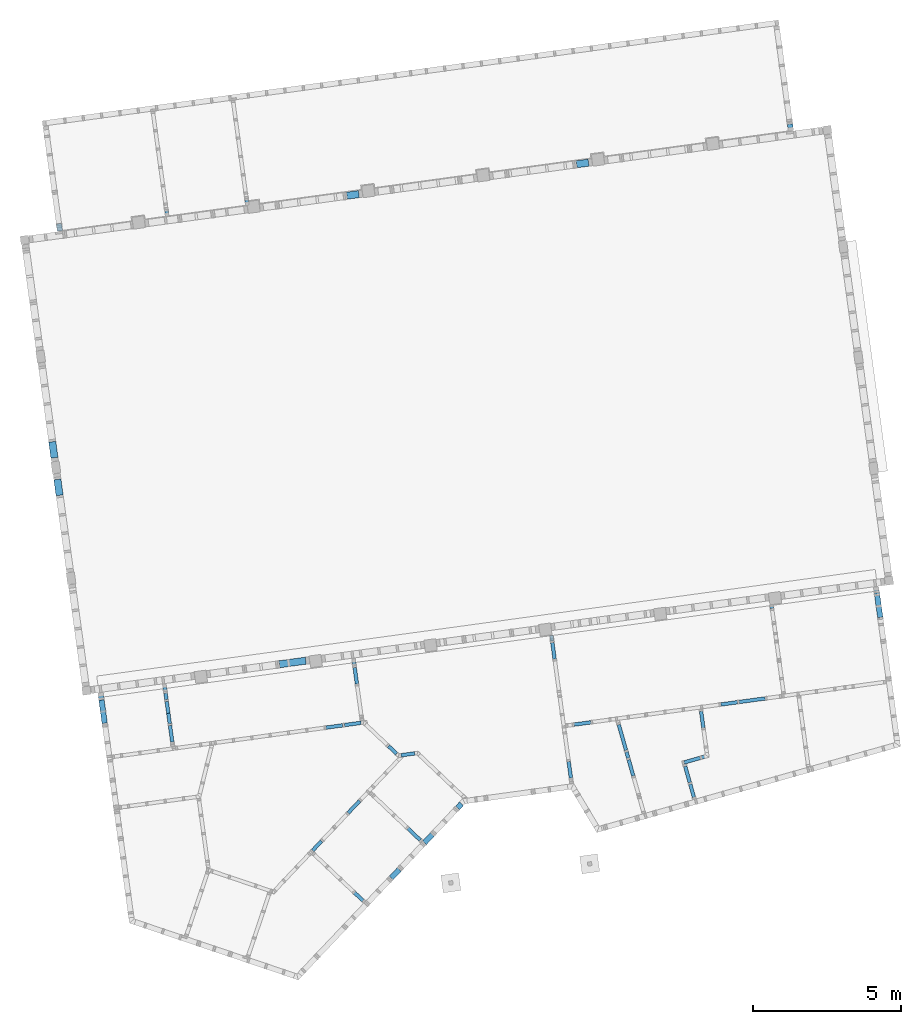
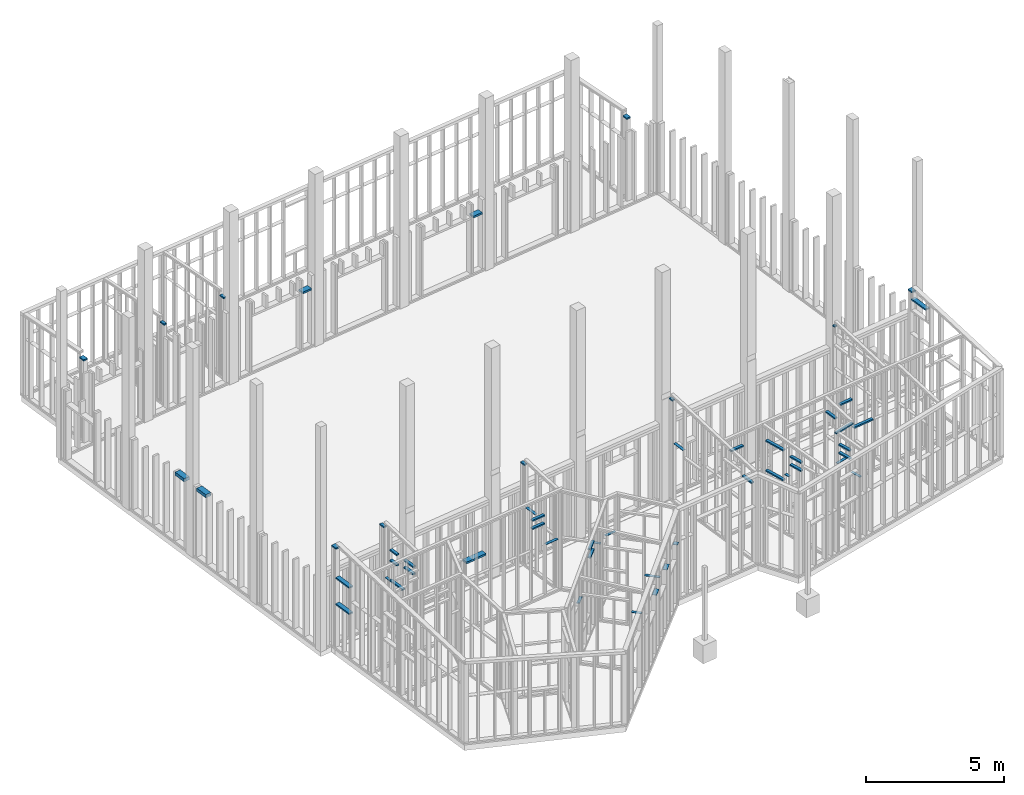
# One storey, part 14 of 24: 54 beams.
"""IFC2X3 building model written with IfcOpenShell, lengths in metres."""

from ifc_helpers import new_model, entity, si_unit, converted_unit, derived_unit, money_unit, direction, frame, frame_2d, origin_with_axes, place, context, subcontext, project, spatial, rectangle, extrude, clip, halfspace, material, type_object, element, save


model = new_model("IFC2X3")

# Units and contexts
model_context = context("Model", 3, precision=1e-05, world=origin_with_axes(), true_north=direction((0.0, 1.0)))
body_context = subcontext(model_context, "Body", "Model", "MODEL_VIEW")
ifc_project = project(units=[si_unit("LENGTHUNIT", "METRE"), si_unit("AREAUNIT", "SQUARE_METRE"), si_unit("VOLUMEUNIT", "CUBIC_METRE"), converted_unit("PLANEANGLEUNIT", "DEGREE", entity("IfcPlaneAngleMeasure", 0.0174532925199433), si_unit("PLANEANGLEUNIT", "RADIAN"), dimensions=[0, 0, 0, 0, 0, 0, 0]), money_unit("EUR"), converted_unit("TIMEUNIT", "Year", entity("IfcTimeMeasure", 31557600.0), si_unit("TIMEUNIT", "SECOND"), dimensions=[0, 0, 1, 0, 0, 0, 0]), si_unit("MASSUNIT", "GRAM", prefix="KILO"), si_unit("THERMODYNAMICTEMPERATUREUNIT", "DEGREE_CELSIUS"), si_unit("LUMINOUSINTENSITYUNIT", "LUMEN"), si_unit("ENERGYUNIT", "JOULE", prefix="MEGA"), derived_unit("THERMALCONDUCTANCEUNIT", [(si_unit("POWERUNIT", "WATT"), 1), (si_unit("LENGTHUNIT", "METRE"), -1), (si_unit("THERMODYNAMICTEMPERATUREUNIT", "KELVIN"), -1)]), derived_unit("SPECIFICHEATCAPACITYUNIT", [(si_unit("ENERGYUNIT", "JOULE"), 1), (si_unit("MASSUNIT", "GRAM", prefix="KILO"), -1), (si_unit("THERMODYNAMICTEMPERATUREUNIT", "KELVIN"), -1)]), derived_unit("MASSDENSITYUNIT", [(si_unit("MASSUNIT", "GRAM", prefix="KILO"), 1), (si_unit("VOLUMEUNIT", "CUBIC_METRE"), -1)])], contexts=[model_context])

# Site, building, storey
site_placement = place(None, origin_with_axes())
site = spatial("IfcSite", under=ifc_project, at=site_placement, Name="Gelände", CompositionType="ELEMENT")
building_placement = place(site_placement, origin_with_axes())
building = spatial("IfcBuilding", under=site, at=building_placement, Name="Gebäude", CompositionType="ELEMENT")
storey_placement = place(building_placement, origin_with_axes())
storey = spatial("IfcBuildingStorey", under=building, at=storey_placement, Name="EG", CompositionType="ELEMENT", Elevation=0.0)

# Beams
ifc_material_1 = material(Name="Bauholz")
beam_type_1 = type_object("IfcBeamType", Name="Bauholz 120 x 60", PredefinedType="NOTDEFINED")
beam_1_placement = place(storey_placement, frame((95.43457130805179, -155.1438306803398, 3.324435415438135), z_axis=(0.0, 0.0, 1.0), x_axis=(0.7262467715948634, -0.687434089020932, 0.0)))
element("IfcBeam", 1, at=beam_1_placement, inside=storey, type_object=beam_type_1, material=ifc_material_1, Name="Unterzug-021", context=body_context, shape_type="SweptSolid", body=[
    extrude(rectangle(XDim=0.06, YDim=0.12, at=frame_2d((-0.03, 0.0), x_axis=(1.0, 0.0))), frame((0.0, 0.0, 0.0), z_axis=(0.0, 1.0, 0.0), x_axis=(0.0, 0.0, 1.0)), (0.0, 0.0, 1.0), 0.5649999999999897),
])
beam_2_placement = place(storey_placement, frame((89.22474285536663, -150.7927194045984, 4.356648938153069), z_axis=(0.0, 0.0, 1.0), x_axis=(-0.9907484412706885, -0.135711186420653, 0.0)))
element("IfcBeam", 2, at=beam_2_placement, inside=storey, type_object=beam_type_1, material=ifc_material_1, Name="Unterzug-021", context=body_context, shape_type="SweptSolid", body=[
    extrude(rectangle(XDim=0.06, YDim=0.12, at=frame_2d((-0.03, 0.0), x_axis=(1.0, 0.0))), frame((0.0, 0.0, 0.0), z_axis=(0.0, 1.0, 0.0), x_axis=(0.0, 0.0, 1.0)), (0.0, 0.0, 1.0), 0.2529999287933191),
])
beam_3_placement = place(storey_placement, frame((95.6137137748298, -149.9428017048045, 4.353175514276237), z_axis=(0.0, 0.0, 1.0), x_axis=(-0.9907484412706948, -0.1357111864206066, 0.0)))
element("IfcBeam", 3, at=beam_3_placement, inside=storey, type_object=beam_type_1, material=ifc_material_1, Name="Unterzug-021", context=body_context, shape_type="SweptSolid", body=[
    extrude(rectangle(XDim=0.06, YDim=0.12, at=frame_2d((-0.03, 0.0), x_axis=(1.0, 0.0))), frame((0.0, 0.0, 0.0), z_axis=(0.0, 1.0, 0.0), x_axis=(0.0, 0.0, 1.0)), (0.0, 0.0, 1.0), 0.2314736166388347),
])
beam_4_placement = place(storey_placement, frame((104.5730254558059, -152.1643592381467, 3.517563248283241), z_axis=(0.0, 0.0, 1.0), x_axis=(-0.9621980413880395, -0.272350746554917, 0.0)))
element("IfcBeam", 4, at=beam_4_placement, inside=storey, type_object=beam_type_1, material=ifc_material_1, Name="Unterzug-021", context=body_context, shape_type="SweptSolid", body=[
    extrude(rectangle(XDim=0.06, YDim=0.12, at=frame_2d((-0.03, 0.0), x_axis=(1.0, 0.0))), frame((0.0, 0.0, 0.0), z_axis=(0.0, 1.0, 0.0), x_axis=(0.0, 0.0, 1.0)), (0.0, 0.0, 1.0), 0.8976032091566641),
])
beam_5_placement = place(storey_placement, frame((109.5164427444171, -151.277669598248, 2.195), z_axis=(0.0, 0.0, 1.0), x_axis=(-0.135711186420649, 0.9907484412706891, 0.0)))
element("IfcBeam", 5, at=beam_5_placement, inside=storey, type_object=beam_type_1, material=ifc_material_1, Name="Unterzug-021", context=body_context, shape_type="SweptSolid", body=[
    extrude(rectangle(XDim=0.06, YDim=0.12, at=frame_2d((-0.03, 0.0), x_axis=(1.0, 0.0))), frame((0.0, 0.0, 0.0), z_axis=(0.0, 1.0, 0.0), x_axis=(0.0, 0.0, 1.0)), (0.0, 0.0, 1.0), 0.8849999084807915),
])
beam_6_placement = place(storey_placement, frame((104.5730254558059, -152.1643592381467, 2.195), z_axis=(0.0, 0.0, 1.0), x_axis=(-0.9621980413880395, -0.272350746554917, 0.0)))
element("IfcBeam", 6, at=beam_6_placement, inside=storey, type_object=beam_type_1, material=ifc_material_1, Name="Unterzug-021", context=body_context, shape_type="SweptSolid", body=[
    extrude(rectangle(XDim=0.06, YDim=0.12, at=frame_2d((-0.03, 0.0), x_axis=(1.0, 0.0))), frame((0.0, 0.0, 0.0), z_axis=(0.0, 1.0, 0.0), x_axis=(0.0, 0.0, 1.0)), (0.0, 0.0, 1.0), 0.8976032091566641),
])
beam_7_placement = place(storey_placement, frame((89.30489838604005, -151.3778883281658, 2.195), z_axis=(0.0, 0.0, 1.0), x_axis=(-0.9907484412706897, -0.1357111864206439, 0.0)))
element("IfcBeam", 7, at=beam_7_placement, inside=storey, type_object=beam_type_1, material=ifc_material_1, Name="Unterzug-021", context=body_context, shape_type="SweptSolid", body=[
    extrude(rectangle(XDim=0.06, YDim=0.12, at=frame_2d((-0.03, 0.0), x_axis=(1.0, 0.0))), frame((0.0, 0.0, 0.0), z_axis=(0.0, 1.0, 0.0), x_axis=(0.0, 0.0, 1.0)), (0.0, 0.0, 1.0), 0.7600000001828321),
])
beam_8_placement = place(storey_placement, frame((102.296296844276, -149.1485518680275, 4.356648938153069), z_axis=(0.0, 0.0, 1.0), x_axis=(-0.9907484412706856, -0.1357111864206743, 0.0)))
element("IfcBeam", 8, at=beam_8_placement, inside=storey, type_object=beam_type_1, material=ifc_material_1, Name="Unterzug-021", context=body_context, shape_type="SweptSolid", body=[
    extrude(rectangle(XDim=0.06, YDim=0.12, at=frame_2d((-0.03, 0.0), x_axis=(1.0, 0.0))), frame((0.0, 0.0, 0.0), z_axis=(0.0, 1.0, 0.0), x_axis=(0.0, 0.0, 1.0)), (0.0, 0.0, 1.0), 0.1857247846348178),
])
beam_9_placement = place(storey_placement, frame((109.7305045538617, -148.1251793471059, 4.356648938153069), z_axis=(0.0, 0.0, 1.0), x_axis=(-0.9907486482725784, -0.1357096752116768, 0.0)))
element("IfcBeam", 9, at=beam_9_placement, inside=storey, type_object=beam_type_1, material=ifc_material_1, Name="Unterzug-021", context=body_context, shape_type="SweptSolid", body=[
    extrude(rectangle(XDim=0.06, YDim=0.12, at=frame_2d((-0.03, 0.0), x_axis=(1.0, 0.0))), frame((0.0, 0.0, 0.0), z_axis=(0.0, 1.0, 0.0), x_axis=(0.0, 0.0, 1.0)), (0.0, 0.0, 1.0), 0.11299430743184),
])
for number, where, z_axis, x_axis, name in (
    (10, (108.5801850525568, -151.4059152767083, 3.477643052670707), (0.0, 0.0, 1.0), (-0.1357111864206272, 0.990748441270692, 0.0), "Unterzug-021"),
    (11, (103.6264417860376, -152.0844634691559, 3.572563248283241), (0.0, 0.0, 1.0), (-0.1357111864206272, 0.990748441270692, 0.0), "Unterzug-021"),
):
    element("IfcBeam", number, at=place(storey_placement, frame(where, z_axis=z_axis, x_axis=x_axis)), inside=storey, type_object=beam_type_1, material=ifc_material_1, Name=name, context=body_context, shape_type="SweptSolid", body=[
        extrude(rectangle(XDim=0.06, YDim=0.12, at=frame_2d((-0.03, 0.0), x_axis=(1.0, 0.0))), frame((0.0, 0.0, 0.0), z_axis=(0.0, 1.0, 0.0), x_axis=(0.0, 0.0, 1.0)), (0.0, 0.0, 1.0), 0.5650000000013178),
    ])
beam_10_placement = place(storey_placement, frame((107.353026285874, -151.7102626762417, 3.547563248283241), z_axis=(0.0, 0.0, 1.0), x_axis=(-0.990748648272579, -0.1357096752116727, 0.0)))
element("IfcBeam", 12, at=beam_10_placement, inside=storey, type_object=beam_type_1, material=ifc_material_1, Name="Unterzug-021", context=body_context, shape_type="SweptSolid", body=[
    extrude(rectangle(XDim=0.06, YDim=0.12, at=frame_2d((-0.03, 0.0), x_axis=(1.0, 0.0))), frame((0.0, 0.0, 0.0), z_axis=(0.0, 1.0, 0.0), x_axis=(0.0, 0.0, 1.0)), (0.0, 0.0, 1.0), 0.564999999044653),
])
beam_11_placement = place(storey_placement, frame((106.8155178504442, -153.5696110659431, 3.044999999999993), z_axis=(0.0, 0.0, 1.0), x_axis=(-0.9621980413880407, -0.2723507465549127, 0.0)))
element("IfcBeam", 13, at=beam_11_placement, inside=storey, type_object=beam_type_1, material=ifc_material_1, Name="Unterzug-021", context=body_context, shape_type="SweptSolid", body=[
    extrude(rectangle(XDim=0.06, YDim=0.12, at=frame_2d((-0.03, 0.0), x_axis=(1.0, 0.0))), frame((0.0, 0.0, 0.0), z_axis=(0.0, 1.0, 0.0), x_axis=(0.0, 0.0, 1.0)), (0.0, 0.0, 1.0), 0.5650000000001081),
])
beam_12_placement = place(storey_placement, frame((104.908690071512, -153.35024119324, 3.407000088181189), z_axis=(0.0, 0.0, 1.0), x_axis=(-0.962198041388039, -0.2723507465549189, 0.0)))
element("IfcBeam", 14, at=beam_12_placement, inside=storey, type_object=beam_type_1, material=ifc_material_1, Name="Unterzug-021", context=body_context, shape_type="SweptSolid", body=[
    extrude(rectangle(XDim=0.0600000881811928, YDim=0.12, at=frame_2d((-0.0300000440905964, 0.0), x_axis=(1.0, 0.0))), frame((0.0, 0.0, 0.0), z_axis=(0.0, 1.0, 0.0), x_axis=(0.0, 0.0, 1.0)), (0.0, 0.0, 1.0), 0.564999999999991),
])
beam_13_placement = place(storey_placement, frame((106.8155178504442, -153.5696110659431, 3.406999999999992), z_axis=(0.0, 0.0, 1.0), x_axis=(-0.9621980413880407, -0.2723507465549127, 0.0)))
element("IfcBeam", 15, at=beam_13_placement, inside=storey, type_object=beam_type_1, material=ifc_material_1, Name="Unterzug-021", context=body_context, shape_type="SweptSolid", body=[
    extrude(rectangle(XDim=0.06, YDim=0.12, at=frame_2d((-0.03, 0.0), x_axis=(1.0, 0.0))), frame((0.0, 0.0, 0.0), z_axis=(0.0, 1.0, 0.0), x_axis=(0.0, 0.0, 1.0)), (0.0, 0.0, 1.0), 0.5650000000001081),
])
beam_14_placement = place(storey_placement, frame((104.908690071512, -153.35024119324, 3.044999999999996), z_axis=(0.0, 0.0, 1.0), x_axis=(-0.962198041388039, -0.2723507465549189, 0.0)))
element("IfcBeam", 16, at=beam_14_placement, inside=storey, type_object=beam_type_1, material=ifc_material_1, Name="Unterzug-021", context=body_context, shape_type="SweptSolid", body=[
    extrude(rectangle(XDim=0.0600000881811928, YDim=0.12, at=frame_2d((-0.0300000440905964, 0.0), x_axis=(1.0, 0.0))), frame((0.0, 0.0, 0.0), z_axis=(0.0, 1.0, 0.0), x_axis=(0.0, 0.0, 1.0)), (0.0, 0.0, 1.0), 0.564999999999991),
])
beam_15_placement = place(storey_placement, frame((102.8798128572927, -153.408463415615, 3.297376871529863), z_axis=(0.0, 0.0, 1.0), x_axis=(-0.9907484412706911, -0.1357111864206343, 0.0)))
element("IfcBeam", 17, at=beam_15_placement, inside=storey, type_object=beam_type_1, material=ifc_material_1, Name="Unterzug-021", context=body_context, shape_type="SweptSolid", body=[
    extrude(rectangle(XDim=0.06, YDim=0.12, at=frame_2d((-0.03, 0.0), x_axis=(1.0, 0.0))), frame((0.0, 0.0, 0.0), z_axis=(0.0, 1.0, 0.0), x_axis=(0.0, 0.0, 1.0)), (0.0, 0.0, 1.0), 0.564999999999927),
])
for number, where, z_axis, x_axis, name in (
    (18, (94.6868283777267, -152.2631906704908, 3.130658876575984), (0.0, 0.0, 1.0), (0.1357111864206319, -0.9907484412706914, 0.0), "Unterzug-021"),
    (19, (94.6868283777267, -152.2631906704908, 3.492658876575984), (0.0, 0.0, 1.0), (0.1357111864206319, -0.9907484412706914, 0.0), "Unterzug-021"),
):
    element("IfcBeam", number, at=place(storey_placement, frame(where, z_axis=z_axis, x_axis=x_axis)), inside=storey, type_object=beam_type_1, material=ifc_material_1, Name=name, context=body_context, shape_type="SweptSolid", body=[
        extrude(rectangle(XDim=0.06, YDim=0.12, at=frame_2d((-0.03, 0.0), x_axis=(1.0, 0.0))), frame((0.0, 0.0, 0.0), z_axis=(0.0, 1.0, 0.0), x_axis=(0.0, 0.0, 1.0)), (0.0, 0.0, 1.0), 0.5650000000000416),
    ])
for number, where, z_axis, x_axis, name in (
    (20, (89.41618155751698, -152.1903020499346, 3.226823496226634), (0.0, 0.0, 1.0), (-0.9907484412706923, -0.1357111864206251, 0.0), "Unterzug-021"),
    (21, (89.41618155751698, -152.1903020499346, 3.548823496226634), (0.0, 0.0, 1.0), (-0.9907484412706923, -0.1357111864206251, 0.0), "Unterzug-021"),
):
    element("IfcBeam", number, at=place(storey_placement, frame(where, z_axis=z_axis, x_axis=x_axis)), inside=storey, type_object=beam_type_1, material=ifc_material_1, Name=name, context=body_context, shape_type="SweptSolid", body=[
        extrude(rectangle(XDim=0.06, YDim=0.12, at=frame_2d((-0.03, 0.0), x_axis=(1.0, 0.0))), frame((0.0, 0.0, 0.0), z_axis=(0.0, 1.0, 0.0), x_axis=(0.0, 0.0, 1.0)), (0.0, 0.0, 1.0), 0.5650000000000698),
    ])
for number, where, z_axis, x_axis, name in (
    (22, (89.30489838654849, -151.3778883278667, 3.080658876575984), (0.0, 0.0, 1.0), (-0.9907484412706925, -0.1357111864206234, 0.0), "Unterzug-021"),
    (23, (89.30489838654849, -151.3778883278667, 3.542658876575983), (0.0, 0.0, 1.0), (-0.9907484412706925, -0.1357111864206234, 0.0), "Unterzug-021"),
):
    element("IfcBeam", number, at=place(storey_placement, frame(where, z_axis=z_axis, x_axis=x_axis)), inside=storey, type_object=beam_type_1, material=ifc_material_1, Name=name, context=body_context, shape_type="SweptSolid", body=[
        extrude(rectangle(XDim=0.06, YDim=0.12, at=frame_2d((-0.03, 0.0), x_axis=(1.0, 0.0))), frame((0.0, 0.0, 0.0), z_axis=(0.0, 1.0, 0.0), x_axis=(0.0, 0.0, 1.0)), (0.0, 0.0, 1.0), 0.4043801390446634),
    ])
beam_16_placement = place(storey_placement, frame((95.43457130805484, -155.1438306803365, 3.686435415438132), z_axis=(0.0, 0.0, 1.0), x_axis=(0.7262467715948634, -0.687434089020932, 0.0)))
element("IfcBeam", 24, at=beam_16_placement, inside=storey, type_object=beam_type_1, material=ifc_material_1, Name="Unterzug-021", context=body_context, shape_type="SweptSolid", body=[
    extrude(rectangle(XDim=0.06, YDim=0.12, at=frame_2d((-0.03, 0.0), x_axis=(1.0, 0.0))), frame((0.0, 0.0, 0.0), z_axis=(0.0, 1.0, 0.0), x_axis=(0.0, 0.0, 1.0)), (0.0, 0.0, 1.0), 0.5649999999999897),
])
ifc_material_2 = material(Name="Holz, Bauholz-hart")
beam_type_2 = type_object("IfcBeamType", Name="Holz, Bauholz-hart 120 x 60", PredefinedType="NOTDEFINED")
beam_17_placement = place(storey_placement, frame((107.5596448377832, -153.2186816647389, 3.877414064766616), z_axis=(0.0, 0.0, 1.0), x_axis=(-0.2723508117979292, 0.9621980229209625, 0.0)))
element("IfcBeam", 25, at=beam_17_placement, inside=storey, type_object=beam_type_2, material=ifc_material_2, Name="Unterzug-021", context=body_context, shape_type="Clipping", body=[
    clip(clip(extrude(rectangle(XDim=0.06, YDim=0.12, at=frame_2d((-0.03, 0.0), x_axis=(1.0, 0.0))), frame((0.0, -0.052173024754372, 0.001021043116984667), z_axis=(0.0, 0.9998085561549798, -0.01956657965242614), x_axis=(0.0, 0.01956657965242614, 0.9998085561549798)), (0.0, 0.0, 1.0), 0.92724466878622), halfspace(frame((0.0, 0.0, 0.0), z_axis=(0.0, 1.0, 0.0), x_axis=(0.0, 0.0, 1.0)), True)), halfspace(frame((0.0, 0.8715735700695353, 0.0), z_axis=(0.0, -1.0, 0.0), x_axis=(0.0, 0.0, -1.0)), True)),
])
beam_type_3 = type_object("IfcBeamType", Name="Bauholz 120 x 15", PredefinedType="NOTDEFINED")
beam_18_placement = place(storey_placement, frame((97.86894692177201, -156.0631335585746, 2.15), z_axis=(0.0, 0.0, 1.0), x_axis=(0.6874340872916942, 0.7262467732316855, 0.0)))
element("IfcBeam", 26, at=beam_18_placement, inside=storey, type_object=beam_type_3, material=ifc_material_1, Name="Unterzug-021", context=body_context, shape_type="SweptSolid", body=[
    extrude(rectangle(XDim=0.015, YDim=0.12, at=frame_2d((-0.0075, 0.0), x_axis=(1.0, 0.0))), frame((0.0, 0.0, 0.0), z_axis=(0.0, 1.0, 0.0), x_axis=(0.0, 0.0, 1.0)), (0.0, 0.0, 1.0), 0.5740901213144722),
])
beam_19_placement = place(storey_placement, frame((95.93381995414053, -158.107518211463, 2.472), z_axis=(0.0, 0.0, 1.0), x_axis=(0.6874340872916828, 0.7262467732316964, 0.0)))
element("IfcBeam", 27, at=beam_19_placement, inside=storey, type_object=beam_type_3, material=ifc_material_1, Name="Unterzug-021", context=body_context, shape_type="SweptSolid", body=[
    extrude(rectangle(XDim=0.015, YDim=0.12, at=frame_2d((-0.0075, 0.0), x_axis=(1.0, 0.0))), frame((0.0, 0.0, 0.0), z_axis=(0.0, 1.0, 0.0), x_axis=(0.0, 0.0, 1.0)), (0.0, 0.0, 1.0), 0.3899175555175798),
])
beam_20_placement = place(storey_placement, frame((94.23213361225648, -156.4141582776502, 2.471999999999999), z_axis=(0.0, 0.0, 1.0), x_axis=(0.7262467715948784, -0.6874340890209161, 0.0)))
element("IfcBeam", 28, at=beam_20_placement, inside=storey, type_object=beam_type_3, material=ifc_material_1, Name="Unterzug-021", context=body_context, shape_type="SweptSolid", body=[
    extrude(rectangle(XDim=0.015, YDim=0.12, at=frame_2d((-0.0075, 0.0), x_axis=(1.0, 0.0))), frame((0.0, 0.0, 0.0), z_axis=(0.0, 1.0, 0.0), x_axis=(0.0, 0.0, 1.0)), (0.0, 0.0, 1.0), 0.4391679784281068),
])
beam_21_placement = place(storey_placement, frame((106.9857370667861, -154.1709848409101, 2.472000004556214), z_axis=(0.0, 0.0, 1.0), x_axis=(-0.962198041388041, -0.272350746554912, 0.0)))
element("IfcBeam", 29, at=beam_21_placement, inside=storey, type_object=beam_type_3, material=ifc_material_1, Name="Unterzug-021", context=body_context, shape_type="SweptSolid", body=[
    extrude(rectangle(XDim=0.015, YDim=0.12, at=frame_2d((-0.0075, 0.0), x_axis=(1.0, 0.0))), frame((0.0, 0.0, 0.0), z_axis=(0.0, 1.0, 0.0), x_axis=(0.0, 0.0, 1.0)), (0.0, 0.0, 1.0), 0.4595964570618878),
])
beam_22_placement = place(storey_placement, frame((104.8338294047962, -153.0857631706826, 2.472000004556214), z_axis=(0.0, 0.0, 1.0), x_axis=(-0.9621980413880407, -0.2723507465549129, 0.0)))
element("IfcBeam", 30, at=beam_22_placement, inside=storey, type_object=beam_type_3, material=ifc_material_1, Name="Unterzug-021", context=body_context, shape_type="SweptSolid", body=[
    extrude(rectangle(XDim=0.015, YDim=0.12, at=frame_2d((-0.0075, 0.0), x_axis=(1.0, 0.0))), frame((0.0, 0.0, 0.0), z_axis=(0.0, 1.0, 0.0), x_axis=(0.0, 0.0, 1.0)), (0.0, 0.0, 1.0), 0.2148685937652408),
])
beam_23_placement = place(storey_placement, frame((102.3296444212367, -149.3920031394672, 2.472000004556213), z_axis=(0.0, 0.0, 1.0), x_axis=(-0.990748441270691, -0.1357111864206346, 0.0)))
element("IfcBeam", 31, at=beam_23_placement, inside=storey, type_object=beam_type_3, material=ifc_material_1, Name="Unterzug-021", context=body_context, shape_type="SweptSolid", body=[
    extrude(rectangle(XDim=0.015, YDim=0.12, at=frame_2d((-0.0075, 0.0), x_axis=(1.0, 0.0))), frame((0.0, 0.0, 0.0), z_axis=(0.0, 1.0, 0.0), x_axis=(0.0, 0.0, 1.0)), (0.0, 0.0, 1.0), 0.5650001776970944),
])
beam_24_placement = place(storey_placement, frame((95.65327002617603, -150.2315787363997, 2.471999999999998), z_axis=(0.0, 0.0, 1.0), x_axis=(-0.9907484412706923, -0.1357111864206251, 0.0)))
element("IfcBeam", 32, at=beam_24_placement, inside=storey, type_object=beam_type_3, material=ifc_material_1, Name="Unterzug-021", context=body_context, shape_type="SweptSolid", body=[
    extrude(rectangle(XDim=0.015, YDim=0.12, at=frame_2d((-0.0075, 0.0), x_axis=(1.0, 0.0))), frame((0.0, 0.0, 0.0), z_axis=(0.0, 1.0, 0.0), x_axis=(0.0, 0.0, 1.0)), (0.0, 0.0, 1.0), 0.5650000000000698),
])
beam_25_placement = place(storey_placement, frame((97.22365252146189, -153.1963816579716, 2.471999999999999), z_axis=(0.0, 0.0, 1.0), x_axis=(0.1357110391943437, -0.990748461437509, 0.0)))
element("IfcBeam", 33, at=beam_25_placement, inside=storey, type_object=beam_type_3, material=ifc_material_1, Name="Unterzug-021", context=body_context, shape_type="SweptSolid", body=[
    extrude(rectangle(XDim=0.015, YDim=0.12, at=frame_2d((-0.0075, 0.0), x_axis=(1.0, 0.0))), frame((0.0, 0.0, 0.0), z_axis=(0.0, 1.0, 0.0), x_axis=(0.0, 0.0, 1.0)), (0.0, 0.0, 1.0), 0.4619005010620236),
])
beam_26_placement = place(storey_placement, frame((96.79531147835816, -152.8862222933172, 2.149999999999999), z_axis=(0.0, 0.0, 1.0), x_axis=(-0.687434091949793, -0.7262467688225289, 0.0)))
element("IfcBeam", 34, at=beam_26_placement, inside=storey, type_object=beam_type_3, material=ifc_material_1, Name="Unterzug-021", context=body_context, shape_type="SweptSolid", body=[
    extrude(rectangle(XDim=0.015, YDim=0.12, at=frame_2d((-0.0075, 0.0), x_axis=(1.0, 0.0))), frame((0.0, 0.0, 0.0), z_axis=(0.0, 1.0, 0.0), x_axis=(0.0, 0.0, 1.0)), (0.0, 0.0, 1.0), 0.3799433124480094),
])
beam_27_placement = place(storey_placement, frame((95.30604615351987, -152.1783711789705, 2.149999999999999), z_axis=(0.0, 0.0, 1.0), x_axis=(0.1357111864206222, -0.9907484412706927, 0.0)))
element("IfcBeam", 35, at=beam_27_placement, inside=storey, type_object=beam_type_3, material=ifc_material_1, Name="Unterzug-021", context=body_context, shape_type="SweptSolid", body=[
    extrude(rectangle(XDim=0.015, YDim=0.12, at=frame_2d((-0.0075, 0.0), x_axis=(1.0, 0.0))), frame((0.0, 0.0, 0.0), z_axis=(0.0, 1.0, 0.0), x_axis=(0.0, 0.0, 1.0)), (0.0, 0.0, 1.0), 0.5650000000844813),
])
beam_28_placement = place(storey_placement, frame((89.26722044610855, -151.1028235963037, 2.15), z_axis=(0.0, 0.0, 1.0), x_axis=(-0.9907484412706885, -0.1357111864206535, 0.0)))
element("IfcBeam", 36, at=beam_28_placement, inside=storey, type_object=beam_type_3, material=ifc_material_1, Name="Unterzug-021", context=body_context, shape_type="SweptSolid", body=[
    extrude(rectangle(XDim=0.015, YDim=0.12, at=frame_2d((-0.0075, 0.0), x_axis=(1.0, 0.0))), frame((0.0, 0.0, 0.0), z_axis=(0.0, 1.0, 0.0), x_axis=(0.0, 0.0, 1.0)), (0.0, 0.0, 1.0), 0.2176332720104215),
])
beam_29_placement = place(storey_placement, frame((107.322392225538, -153.2858361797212, 2.472000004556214), z_axis=(0.0, 0.0, 1.0), x_axis=(-0.272350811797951, 0.9621980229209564, 0.0)))
element("IfcBeam", 37, at=beam_29_placement, inside=storey, type_object=beam_type_3, material=ifc_material_1, Name="Unterzug-021", context=body_context, shape_type="SweptSolid", body=[
    extrude(rectangle(XDim=0.015, YDim=0.12, at=frame_2d((-0.0075, 0.0), x_axis=(1.0, 0.0))), frame((0.0, 0.0, 0.0), z_axis=(0.0, 1.0, 0.0), x_axis=(0.0, 0.0, 1.0)), (0.0, 0.0, 1.0), 0.5649999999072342),
])
ifc_material_3 = material(Name="Holz, Bauholz")
beam_type_4 = type_object("IfcBeamType", Name="Holz, Bauholz 120 x 60", PredefinedType="NOTDEFINED")
for number, where, z_axis, x_axis, name in (
    (38, (89.32227157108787, -134.9953332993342, 3.571949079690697), (0.0, 0.0, 1.0), (0.9907484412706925, 0.1357111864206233, 0.0), "Unterzug-021"),
    (39, (92.02968452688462, -134.624476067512, 3.571949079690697), (0.0, 0.0, 1.0), (0.9907484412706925, 0.1357111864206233, 0.0), "Unterzug-021"),
):
    element("IfcBeam", number, at=place(storey_placement, frame(where, z_axis=z_axis, x_axis=x_axis)), inside=storey, type_object=beam_type_4, material=ifc_material_3, Name=name, context=body_context, shape_type="SweptSolid", body=[
        extrude(rectangle(XDim=0.06, YDim=0.12, at=frame_2d((-0.03, 0.0), x_axis=(1.0, 0.0))), frame((0.0, 0.0, 0.0), z_axis=(0.0, 1.0, 0.0), x_axis=(0.0, 0.0, 1.0)), (0.0, 0.0, 1.0), 0.232999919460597),
    ])
beam_type_5 = type_object("IfcBeamType", Name="Holz, Bauholz 240 x 140", PredefinedType="NOTDEFINED")
beam_30_placement = place(storey_placement, frame((85.61402918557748, -143.8817968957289, 3.031999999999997), z_axis=(0.0, 0.0, 1.0), x_axis=(-0.9907484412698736, -0.1357111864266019, 0.0)))
element("IfcBeam", 40, at=beam_30_placement, inside=storey, type_object=beam_type_5, material=ifc_material_3, Name="Unterzug-021", context=body_context, shape_type="SweptSolid", body=[
    extrude(rectangle(XDim=0.14, YDim=0.24, at=frame_2d((-0.07, 0.0), x_axis=(1.0, 0.0))), frame((0.0, 0.0, 0.0), z_axis=(0.0, 1.0, 0.0), x_axis=(0.0, 0.0, 1.0)), (0.0, 0.0, 1.0), 0.5399999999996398),
])
beam_31_placement = place(storey_placement, frame((85.43964031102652, -142.6086851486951, 3.031999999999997), z_axis=(0.0, 0.0, 1.0), x_axis=(-0.9907484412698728, -0.1357111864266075, 0.0)))
element("IfcBeam", 41, at=beam_31_placement, inside=storey, type_object=beam_type_5, material=ifc_material_3, Name="Unterzug-021", context=body_context, shape_type="SweptSolid", body=[
    extrude(rectangle(XDim=0.14, YDim=0.24, at=frame_2d((-0.07, 0.0), x_axis=(1.0, 0.0))), frame((0.0, 0.0, 0.0), z_axis=(0.0, 1.0, 0.0), x_axis=(0.0, 0.0, 1.0)), (0.0, 0.0, 1.0), 0.5449999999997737),
])
beam_type_6 = type_object("IfcBeamType", Name="Bauholz 180 x 60", PredefinedType="NOTDEFINED")
beam_32_placement = place(storey_placement, frame((113.2888473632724, -147.7081797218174, 4.029928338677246), z_axis=(0.0, 0.0, 1.0), x_axis=(-0.9907484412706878, -0.1357111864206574, 0.0)))
element("IfcBeam", 42, at=beam_32_placement, inside=storey, type_object=beam_type_6, material=ifc_material_1, Name="Unterzug-021", context=body_context, shape_type="SweptSolid", body=[
    extrude(rectangle(XDim=0.06, YDim=0.18, at=frame_2d((-0.03, 0.0), x_axis=(1.0, 0.0))), frame((0.0, 0.0, 0.0), z_axis=(0.0, 1.0, 0.0), x_axis=(0.0, 0.0, 1.0)), (0.0, 0.0, 1.0), 0.8420000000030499),
])
for number, where, z_axis, x_axis, name in (
    (43, (87.10214722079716, -151.322971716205, 1.9), (0.0, 0.0, 1.0), (-0.9907484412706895, -0.1357111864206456, 0.0), "Unterzug-021"),
    (44, (87.10214722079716, -151.322971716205, 3.06), (0.0, 0.0, 1.0), (-0.9907484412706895, -0.1357111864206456, 0.0), "Unterzug-021"),
):
    element("IfcBeam", number, at=place(storey_placement, frame(where, z_axis=z_axis, x_axis=x_axis)), inside=storey, type_object=beam_type_6, material=ifc_material_1, Name=name, context=body_context, shape_type="SweptSolid", body=[
        extrude(rectangle(XDim=0.06, YDim=0.18, at=frame_2d((-0.03, 0.0), x_axis=(1.0, 0.0))), frame((0.0, 0.0, 0.0), z_axis=(0.0, 1.0, 0.0), x_axis=(0.0, 0.0, 1.0)), (0.0, 0.0, 1.0), 0.8000000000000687),
    ])
beam_33_placement = place(storey_placement, frame((113.2620762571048, -147.5127394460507, 4.356648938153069), z_axis=(0.0, 0.0, 1.0), x_axis=(-0.9907484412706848, -0.1357111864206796, 0.0)))
element("IfcBeam", 45, at=beam_33_placement, inside=storey, type_object=beam_type_6, material=ifc_material_1, Name="Unterzug-021", context=body_context, shape_type="SweptSolid", body=[
    extrude(rectangle(XDim=0.06, YDim=0.18, at=frame_2d((-0.03, 0.0), x_axis=(1.0, 0.0))), frame((0.0, 0.0, 0.0), z_axis=(0.0, 1.0, 0.0), x_axis=(0.0, 0.0, 1.0)), (0.0, 0.0, 1.0), 0.2404999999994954),
])
beam_34_placement = place(storey_placement, frame((85.66456833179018, -135.2440253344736, 3.571949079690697), z_axis=(0.0, 0.0, 1.0), x_axis=(-0.9907484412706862, -0.1357111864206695, 0.0)))
element("IfcBeam", 46, at=beam_34_placement, inside=storey, type_object=beam_type_6, material=ifc_material_1, Name="Unterzug-021", context=body_context, shape_type="SweptSolid", body=[
    extrude(rectangle(XDim=0.06, YDim=0.18, at=frame_2d((-0.03, 0.0), x_axis=(1.0, 0.0))), frame((0.0, 0.0, 0.0), z_axis=(0.0, 1.0, 0.0), x_axis=(0.0, 0.0, 1.0)), (0.0, 0.0, 1.0), 0.2499999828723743),
])
beam_35_placement = place(storey_placement, frame((87.06994476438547, -151.0878803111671, 4.356648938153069), z_axis=(0.0, 0.0, 1.0), x_axis=(-0.9907484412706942, -0.1357111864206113, 0.0)))
element("IfcBeam", 47, at=beam_35_placement, inside=storey, type_object=beam_type_6, material=ifc_material_1, Name="Unterzug-021", context=body_context, shape_type="SweptSolid", body=[
    extrude(rectangle(XDim=0.06, YDim=0.18, at=frame_2d((-0.03, 0.0), x_axis=(1.0, 0.0))), frame((0.0, 0.0, 0.0), z_axis=(0.0, 1.0, 0.0), x_axis=(0.0, 0.0, 1.0)), (0.0, 0.0, 1.0), 0.2530000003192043),
])
beam_36_placement = place(storey_placement, frame((110.355704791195, -131.8790305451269, 3.571949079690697), z_axis=(0.0, 0.0, 1.0), x_axis=(-0.9907484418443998, -0.1357111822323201, 0.0)))
element("IfcBeam", 48, at=beam_36_placement, inside=storey, type_object=beam_type_6, material=ifc_material_1, Name="Unterzug-021", context=body_context, shape_type="SweptSolid", body=[
    extrude(rectangle(XDim=0.06, YDim=0.18, at=frame_2d((-0.03, 0.0), x_axis=(1.0, 0.0))), frame((0.0, 0.0, 0.0), z_axis=(0.0, 1.0, 0.0), x_axis=(0.0, 0.0, 1.0)), (0.0, 0.0, 1.0), 0.2329999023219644),
])
beam_type_7 = type_object("IfcBeamType", Name="Bauholz 240 x 80", PredefinedType="NOTDEFINED")
beam_37_placement = place(storey_placement, frame((103.5513928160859, -133.1825109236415, 2.48), z_axis=(0.0, 0.0, 1.0), x_axis=(-0.1357111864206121, 0.9907484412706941, 0.0)))
element("IfcBeam", 49, at=beam_37_placement, inside=storey, type_object=beam_type_7, material=ifc_material_1, Name="Unterzug-021", context=body_context, shape_type="SweptSolid", body=[
    extrude(rectangle(XDim=0.08, YDim=0.24, at=frame_2d((-0.04, 0.0), x_axis=(1.0, 0.0))), frame((0.0, 0.0, 0.0), z_axis=(0.0, 1.0, 0.0), x_axis=(0.0, 0.0, 1.0)), (0.0, 0.0, 1.0), 0.4071421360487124),
])
beam_38_placement = place(storey_placement, frame((94.0027849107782, -150.0019699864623, 0.9270000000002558), z_axis=(0.0, 0.0, 1.0), x_axis=(-0.135711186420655, 0.9907484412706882, 0.0)))
element("IfcBeam", 50, at=beam_38_placement, inside=storey, type_object=beam_type_7, material=ifc_material_1, Name="Unterzug-021", context=body_context, shape_type="SweptSolid", body=[
    extrude(rectangle(XDim=0.08, YDim=0.24, at=frame_2d((-0.04, 0.0), x_axis=(1.0, 0.0))), frame((0.0, 0.0, 0.0), z_axis=(0.0, 1.0, 0.0), x_axis=(0.0, 0.0, 1.0)), (0.0, 0.0, 1.0), 0.8999999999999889),
])
beam_type_8 = type_object("IfcBeamType", Name="Holz, Bauholz 240 x 80", PredefinedType="NOTDEFINED")
beam_39_placement = place(storey_placement, frame((95.79524787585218, -134.2449356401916, 2.48), z_axis=(0.0, 0.0, 1.0), x_axis=(-0.1357111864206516, 0.9907484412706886, 0.0)))
element("IfcBeam", 51, at=beam_39_placement, inside=storey, type_object=beam_type_8, material=ifc_material_3, Name="Unterzug-021", context=body_context, shape_type="SweptSolid", body=[
    extrude(rectangle(XDim=0.08, YDim=0.24, at=frame_2d((-0.04, 0.0), x_axis=(1.0, 0.0))), frame((0.0, 0.0, 0.0), z_axis=(0.0, 1.0, 0.0), x_axis=(0.0, 0.0, 1.0)), (0.0, 0.0, 1.0), 0.4071421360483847),
])
beam_type_9 = type_object("IfcBeamType", Name="Bauholz 180 x 15", PredefinedType="NOTDEFINED")
beam_40_placement = place(storey_placement, frame((98.01111922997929, -156.1529571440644, 2.472), z_axis=(0.0, 0.0, 1.0), x_axis=(0.7262467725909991, -0.6874340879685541, 0.0)))
element("IfcBeam", 52, at=beam_40_placement, inside=storey, type_object=beam_type_9, material=ifc_material_1, Name="Unterzug-021", context=body_context, shape_type="SweptSolid", body=[
    extrude(rectangle(XDim=0.015, YDim=0.18, at=frame_2d((-0.0075, 0.0), x_axis=(1.0, 0.0))), frame((0.0, 0.0, 0.0), z_axis=(0.0, 1.0, 0.0), x_axis=(0.0, 0.0, 1.0)), (0.0, 0.0, 1.0), 0.3813445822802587),
])
beam_41_placement = place(storey_placement, frame((96.88372732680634, -157.3440018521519, 2.472), z_axis=(0.0, 0.0, 1.0), x_axis=(0.7262467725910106, -0.687434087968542, 0.0)))
element("IfcBeam", 53, at=beam_41_placement, inside=storey, type_object=beam_type_9, material=ifc_material_1, Name="Unterzug-021", context=body_context, shape_type="SweptSolid", body=[
    extrude(rectangle(XDim=0.015, YDim=0.18, at=frame_2d((-0.0075, 0.0), x_axis=(1.0, 0.0))), frame((0.0, 0.0, 0.0), z_axis=(0.0, 1.0, 0.0), x_axis=(0.0, 0.0, 1.0)), (0.0, 0.0, 1.0), 0.4000000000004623),
])
beam_42_placement = place(storey_placement, frame((99.12568676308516, -154.9754608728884, 2.472), z_axis=(0.0, 0.0, 1.0), x_axis=(0.7262467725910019, -0.687434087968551, 0.0)))
element("IfcBeam", 54, at=beam_42_placement, inside=storey, type_object=beam_type_9, material=ifc_material_1, Name="Unterzug-021", context=body_context, shape_type="SweptSolid", body=[
    extrude(rectangle(XDim=0.015, YDim=0.18, at=frame_2d((-0.0075, 0.0), x_axis=(1.0, 0.0))), frame((0.0, 0.0, 0.0), z_axis=(0.0, 1.0, 0.0), x_axis=(0.0, 0.0, 1.0)), (0.0, 0.0, 1.0), 0.1972140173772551),
])

save(model, "model.ifc")
